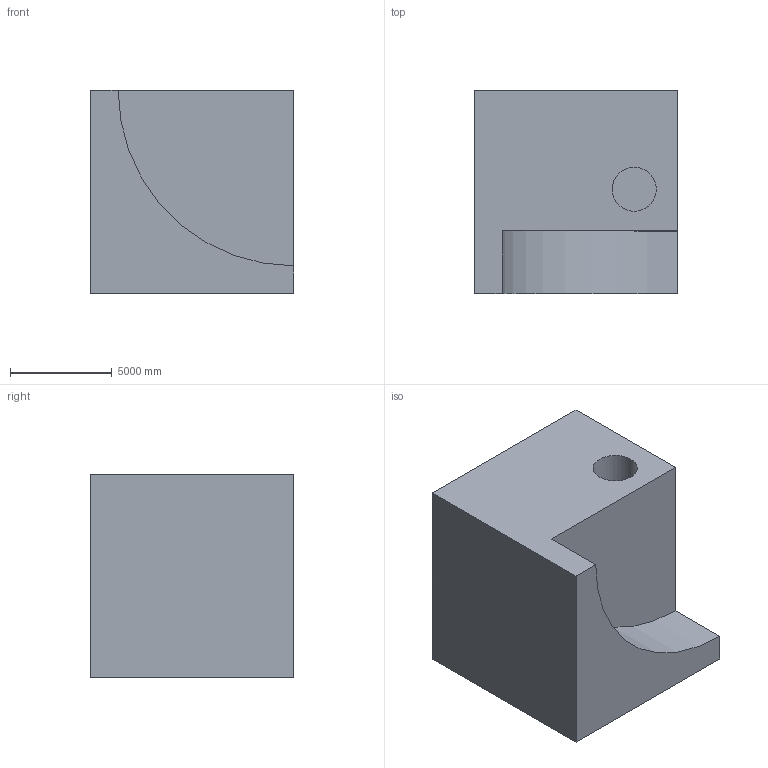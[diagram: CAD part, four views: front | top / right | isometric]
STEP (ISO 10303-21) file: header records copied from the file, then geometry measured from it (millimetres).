
FILE_DESCRIPTION (( 'STEP AP203' ), '1' );
FILE_NAME ('1094.STEP', '2022-08-18T12:44:11', ( 'user' ), ( '' ), 'SwSTEP 2.0', 'SolidWorks 2021', '' );
FILE_SCHEMA (( 'CONFIG_CONTROL_DESIGN' ));
Length unit declared in the file: centimetre
Products named in the file (1): 1094
Bounding box: 10000 x 10000 x 10000 mm (x, y, z)
Volume: 804146581445.8 mm3; surface area: 616623593.3 mm2
Topology: 1 solids, 1 shells, 11 faces, 24 edges, 16 vertices
Faces by surface type: plane 8, cylinder 3
Entity records: 381 total; most frequent: DIRECTION 54, CARTESIAN_POINT 52, ORIENTED_EDGE 48, EDGE_CURVE 24, LINE 18, AXIS2_PLACEMENT_3D 18, VECTOR 18, VERTEX_POINT 16
